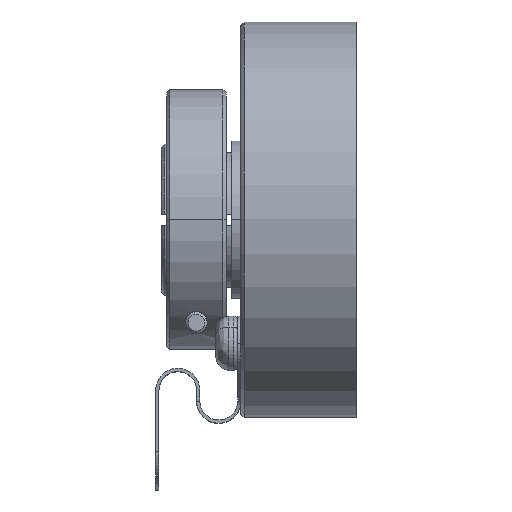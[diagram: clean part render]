
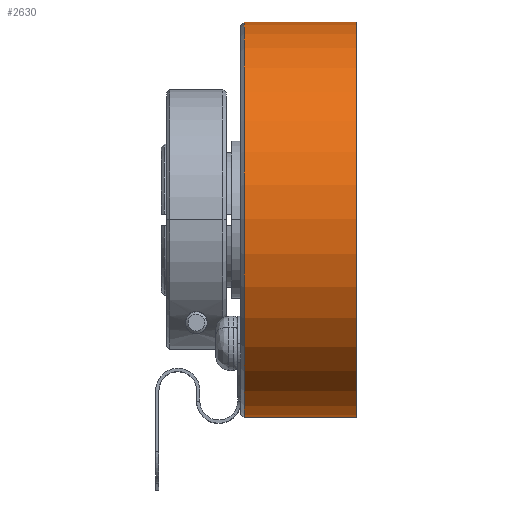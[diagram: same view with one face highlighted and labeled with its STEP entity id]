
A CAD part, top view. The second image highlights one B-rep face of the part: STEP entity #2630.
In plain terms, the highlighted cylindrical face has radius 18.25 mm (diameter 36.5 mm), a partial arc.
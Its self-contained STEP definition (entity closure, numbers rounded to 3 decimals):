
#933 = DIRECTION ( 'NONE',  ( -1., 0., 0. ) ) ;
#1807 = CARTESIAN_POINT ( 'NONE',  ( -1.3, 0., 0. ) ) ;
#2630 = ADVANCED_FACE ( 'NONE', ( #13658 ), #20368, .T. ) ;
#3558 = DIRECTION ( 'NONE',  ( 0., 1., 0. ) ) ;
#3958 = CARTESIAN_POINT ( 'NONE',  ( -1.3, 18.25, 0. ) ) ;
#4093 = CARTESIAN_POINT ( 'NONE',  ( -11.65, -18.25, 0. ) ) ;
#4257 = CARTESIAN_POINT ( 'NONE',  ( -11.65, 0., 0. ) ) ;
#4795 = EDGE_CURVE ( 'NONE', #15198, #6492, #13771, .T. ) ;
#5010 = CARTESIAN_POINT ( 'NONE',  ( -11.65, 18.25, 0. ) ) ;
#6321 = EDGE_CURVE ( 'NONE', #15198, #10310, #11635, .T. ) ;
#6492 = VERTEX_POINT ( 'NONE', #4093 ) ;
#7191 = AXIS2_PLACEMENT_3D ( 'NONE', #17687, #16043, #20674 ) ;
#8275 = VECTOR ( 'NONE', #16848, 1000. ) ;
#9165 = DIRECTION ( 'NONE',  ( 1., 0., 0. ) ) ;
#9217 = EDGE_LOOP ( 'NONE', ( #19138, #20460, #10704, #19531 ) ) ;
#9423 = AXIS2_PLACEMENT_3D ( 'NONE', #1807, #13153, #3558 ) ;
#9703 = EDGE_CURVE ( 'NONE', #11029, #6492, #16838, .T. ) ;
#10310 = VERTEX_POINT ( 'NONE', #3958 ) ;
#10481 = AXIS2_PLACEMENT_3D ( 'NONE', #4257, #9165, #13866 ) ;
#10704 = ORIENTED_EDGE ( 'NONE', *, *, #15985, .T. ) ;
#11029 = VERTEX_POINT ( 'NONE', #5010 ) ;
#11635 = CIRCLE ( 'NONE', #9423, 18.25 ) ;
#12237 = CARTESIAN_POINT ( 'NONE',  ( -1000., -18.25, 0. ) ) ;
#13153 = DIRECTION ( 'NONE',  ( -1., 0., 0. ) ) ;
#13658 = FACE_OUTER_BOUND ( 'NONE', #9217, .T. ) ;
#13771 = LINE ( 'NONE', #12237, #8275 ) ;
#13866 = DIRECTION ( 'NONE',  ( 0., 1., 0. ) ) ;
#15114 = LINE ( 'NONE', #18005, #15611 ) ;
#15198 = VERTEX_POINT ( 'NONE', #19648 ) ;
#15611 = VECTOR ( 'NONE', #933, 1000. ) ;
#15985 = EDGE_CURVE ( 'NONE', #10310, #11029, #15114, .T. ) ;
#16043 = DIRECTION ( 'NONE',  ( -1., 0., 0. ) ) ;
#16838 = CIRCLE ( 'NONE', #10481, 18.25 ) ;
#16848 = DIRECTION ( 'NONE',  ( -1., 0., 0. ) ) ;
#17687 = CARTESIAN_POINT ( 'NONE',  ( -1000., 0., 0. ) ) ;
#18005 = CARTESIAN_POINT ( 'NONE',  ( -1000., 18.25, 0. ) ) ;
#19138 = ORIENTED_EDGE ( 'NONE', *, *, #4795, .F. ) ;
#19531 = ORIENTED_EDGE ( 'NONE', *, *, #9703, .T. ) ;
#19648 = CARTESIAN_POINT ( 'NONE',  ( -1.3, -18.25, 0. ) ) ;
#20368 = CYLINDRICAL_SURFACE ( 'NONE', #7191, 18.25 ) ;
#20460 = ORIENTED_EDGE ( 'NONE', *, *, #6321, .T. ) ;
#20674 = DIRECTION ( 'NONE',  ( 0., 1., 0. ) ) ;
